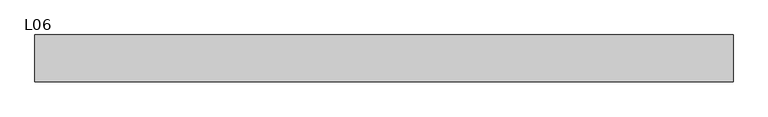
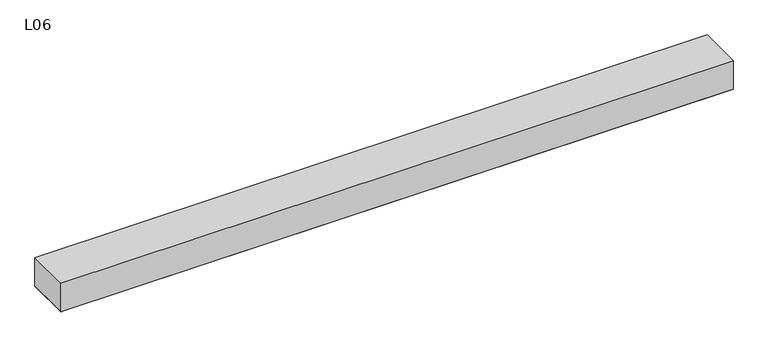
"""IFC4 building model written with IfcOpenShell, lengths in millimetres: light fixture geometry, ZYR_06.02.05 LLuminaria Lineal Superficie : L06."""

from ifc_helpers import new_model, si_unit, frame, origin, place, context, project, spatial, polyline, outline, extrude, source, transform, mapped, element, save


def l06_adabe917(model_context):
    return source(origin(), model_context, "Body", "SweptSolid", [
        extrude(outline(polyline([(1120.0, 75.0), (1120.0, -75.0), (-1120.0, -75.0), (-1120.0, 75.0), (1120.0, 75.0)])), frame((0.0, 0.0, -100.0), z_axis=(0.0, 0.0, 1.0), x_axis=(1.0, 0.0, 0.0)), (0.0, 0.0, 1.0), 100.0),
        extrude(outline(polyline([(1120.0, 75.0), (1120.0, -75.0), (-1120.0, -75.0), (-1120.0, 75.0), (1120.0, 75.0)]), holes=[polyline([(-1045.3333333, -50.0), (1045.3333333, -50.0), (1045.3333333, 50.0), (-1045.3333333, 50.0), (-1045.3333333, -50.0)])]), frame((0.0, 0.0, -101.0), z_axis=(0.0, 0.0, 1.0), x_axis=(1.0, 0.0, 0.0)), (0.0, 0.0, 1.0), 1.0),
        extrude(outline(polyline([(1045.3333333, 50.0), (1045.3333333, -50.0), (-1045.3333333, -50.0), (-1045.3333333, 50.0), (1045.3333333, 50.0)])), frame((0.0, 0.0, -101.0), z_axis=(0.0, 0.0, 1.0), x_axis=(1.0, 0.0, 0.0)), (0.0, 0.0, 1.0), 1.0),
    ])


if __name__ == "__main__":
    model = new_model("IFC4")
    model_context = context("Model", 3, world=origin())
    ifc_project = project(units=[si_unit("LENGTHUNIT", "METRE", prefix="MILLI")], contexts=[model_context])
    site = spatial("IfcSite", under=ifc_project)
    building = spatial("IfcBuilding", under=site)
    placement = place(None, origin())
    l06_shape = l06_adabe917(model_context)
    element("IfcLightFixture", 1, ObjectType="ZYR_06.02.05 LLuminaria Lineal Superficie : L06", at=placement, inside=building, context=model_context, shape_type="MappedRepresentation", body=[
        mapped(l06_shape, transform((0.0, 0.0, 0.0), x_axis=(1.0, 0.0, 0.0), y_axis=(0.0, 1.0, 0.0), z_axis=(0.0, 0.0, 1.0))),
    ])
    save(model, "model.ifc")
